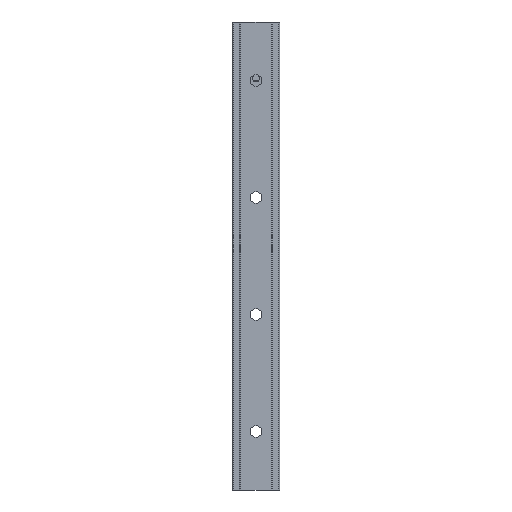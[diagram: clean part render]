
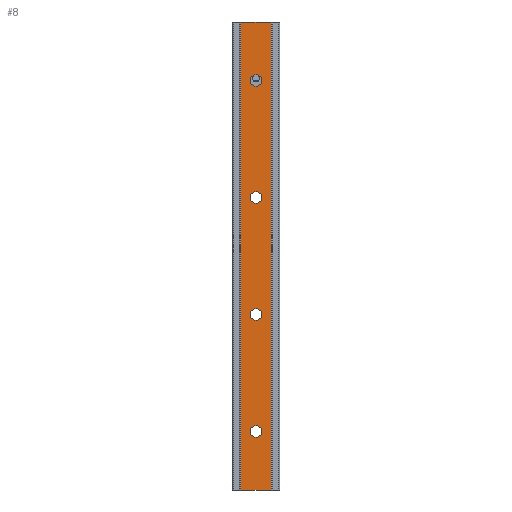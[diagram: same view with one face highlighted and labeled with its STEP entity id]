
A CAD part, front view. The second image highlights one B-rep face of the part: STEP entity #8.
In plain terms, the highlighted planar face has unit normal (0, -1, 0).
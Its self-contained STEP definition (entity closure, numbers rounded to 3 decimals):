
#8 = ADVANCED_FACE ( 'NONE', ( #2481, #12439, #6533, #7404, #11442 ), #10574, .T. ) ;
#205 = CARTESIAN_POINT ( 'NONE',  ( -6.6, 0., -200. ) ) ;
#268 = DIRECTION ( 'NONE',  ( 0., 0., 1. ) ) ;
#1140 = VECTOR ( 'NONE', #5622, 1000. ) ;
#1373 = DIRECTION ( 'NONE',  ( 0., 1., 0. ) ) ;
#1572 = DIRECTION ( 'NONE',  ( 0., 0., 1. ) ) ;
#1886 = VECTOR ( 'NONE', #8439, 1000. ) ;
#1965 = DIRECTION ( 'NONE',  ( 0., 1., 0. ) ) ;
#2031 = DIRECTION ( 'NONE',  ( 0., 0., 1. ) ) ;
#2096 = DIRECTION ( 'NONE',  ( 0., 1., 0. ) ) ;
#2279 = VERTEX_POINT ( 'NONE', #6287 ) ;
#2428 = EDGE_LOOP ( 'NONE', ( #9776, #6931, #12504, #12284 ) ) ;
#2446 = EDGE_LOOP ( 'NONE', ( #3698, #12157 ) ) ;
#2481 = FACE_BOUND ( 'NONE', #2446, .T. ) ;
#2564 = LINE ( 'NONE', #2846, #1140 ) ;
#2645 = EDGE_CURVE ( 'NONE', #12613, #3047, #8004, .T. ) ;
#2819 = CIRCLE ( 'NONE', #3885, 2.5 ) ;
#2846 = CARTESIAN_POINT ( 'NONE',  ( -10.075, 0., -200. ) ) ;
#3043 = AXIS2_PLACEMENT_3D ( 'NONE', #11854, #6815, #10864 ) ;
#3047 = VERTEX_POINT ( 'NONE', #7060 ) ;
#3090 = ORIENTED_EDGE ( 'NONE', *, *, #5325, .T. ) ;
#3153 = AXIS2_PLACEMENT_3D ( 'NONE', #12181, #5332, #10306 ) ;
#3178 = VERTEX_POINT ( 'NONE', #6188 ) ;
#3200 = DIRECTION ( 'NONE',  ( 0., 0., -1. ) ) ;
#3202 = VERTEX_POINT ( 'NONE', #7445 ) ;
#3319 = DIRECTION ( 'NONE',  ( 0., 1., 0. ) ) ;
#3500 = ORIENTED_EDGE ( 'NONE', *, *, #10775, .T. ) ;
#3554 = DIRECTION ( 'NONE',  ( 0., 0., -1. ) ) ;
#3601 = VERTEX_POINT ( 'NONE', #9349 ) ;
#3680 = DIRECTION ( 'NONE',  ( 0., 1., 0. ) ) ;
#3698 = ORIENTED_EDGE ( 'NONE', *, *, #8315, .T. ) ;
#3699 = DIRECTION ( 'NONE',  ( 0., 1., 0. ) ) ;
#3795 = CARTESIAN_POINT ( 'NONE',  ( -6.6, 0., -200. ) ) ;
#3866 = CIRCLE ( 'NONE', #11270, 2.5 ) ;
#3885 = AXIS2_PLACEMENT_3D ( 'NONE', #4973, #1965, #2031 ) ;
#3924 = EDGE_CURVE ( 'NONE', #3601, #9336, #5469, .T. ) ;
#4024 = VECTOR ( 'NONE', #10183, 1000. ) ;
#4223 = DIRECTION ( 'NONE',  ( 0., 0., 1. ) ) ;
#4315 = CIRCLE ( 'NONE', #7907, 2.5 ) ;
#4401 = LINE ( 'NONE', #8313, #1886 ) ;
#4531 = AXIS2_PLACEMENT_3D ( 'NONE', #7402, #1373, #4223 ) ;
#4684 = CARTESIAN_POINT ( 'NONE',  ( 0., 0., -25. ) ) ;
#4973 = CARTESIAN_POINT ( 'NONE',  ( 0., 0., -75. ) ) ;
#5061 = AXIS2_PLACEMENT_3D ( 'NONE', #6562, #3319, #268 ) ;
#5065 = EDGE_CURVE ( 'NONE', #6482, #2279, #5470, .T. ) ;
#5325 = EDGE_CURVE ( 'NONE', #11349, #3202, #11614, .T. ) ;
#5332 = DIRECTION ( 'NONE',  ( 0., 1., 0. ) ) ;
#5469 = CIRCLE ( 'NONE', #6325, 2.5 ) ;
#5470 = CIRCLE ( 'NONE', #5061, 2.5 ) ;
#5622 = DIRECTION ( 'NONE',  ( 1., 0., 0. ) ) ;
#5720 = ORIENTED_EDGE ( 'NONE', *, *, #11336, .T. ) ;
#6087 = EDGE_LOOP ( 'NONE', ( #9491, #12712 ) ) ;
#6091 = VERTEX_POINT ( 'NONE', #10148 ) ;
#6188 = CARTESIAN_POINT ( 'NONE',  ( 0., 0., -77.5 ) ) ;
#6227 = CIRCLE ( 'NONE', #4531, 2.5 ) ;
#6287 = CARTESIAN_POINT ( 'NONE',  ( 0., 0., -22.5 ) ) ;
#6325 = AXIS2_PLACEMENT_3D ( 'NONE', #9127, #2096, #10186 ) ;
#6482 = VERTEX_POINT ( 'NONE', #11862 ) ;
#6533 = FACE_BOUND ( 'NONE', #7778, .T. ) ;
#6562 = CARTESIAN_POINT ( 'NONE',  ( 0., 0., -25. ) ) ;
#6815 = DIRECTION ( 'NONE',  ( 0., 1., 0. ) ) ;
#6931 = ORIENTED_EDGE ( 'NONE', *, *, #9356, .T. ) ;
#6952 = EDGE_CURVE ( 'NONE', #3178, #6091, #2819, .T. ) ;
#7049 = LINE ( 'NONE', #205, #9387 ) ;
#7060 = CARTESIAN_POINT ( 'NONE',  ( 6.6, 0., 0. ) ) ;
#7285 = VERTEX_POINT ( 'NONE', #3795 ) ;
#7402 = CARTESIAN_POINT ( 'NONE',  ( 0., 0., -75. ) ) ;
#7404 = FACE_OUTER_BOUND ( 'NONE', #2428, .T. ) ;
#7445 = CARTESIAN_POINT ( 'NONE',  ( 0., 0., -127.5 ) ) ;
#7778 = EDGE_LOOP ( 'NONE', ( #3500, #8399 ) ) ;
#7907 = AXIS2_PLACEMENT_3D ( 'NONE', #4684, #3699, #1572 ) ;
#8004 = LINE ( 'NONE', #8999, #4024 ) ;
#8032 = EDGE_CURVE ( 'NONE', #7285, #8066, #2564, .T. ) ;
#8066 = VERTEX_POINT ( 'NONE', #10786 ) ;
#8204 = CARTESIAN_POINT ( 'NONE',  ( 0., 0., -122.5 ) ) ;
#8313 = CARTESIAN_POINT ( 'NONE',  ( 6.6, 0., 0. ) ) ;
#8315 = EDGE_CURVE ( 'NONE', #6091, #3178, #6227, .T. ) ;
#8399 = ORIENTED_EDGE ( 'NONE', *, *, #3924, .T. ) ;
#8439 = DIRECTION ( 'NONE',  ( 0., 0., 1. ) ) ;
#8520 = EDGE_LOOP ( 'NONE', ( #3090, #5720 ) ) ;
#8738 = CIRCLE ( 'NONE', #3043, 2.5 ) ;
#8968 = AXIS2_PLACEMENT_3D ( 'NONE', #13134, #12830, #3554 ) ;
#8999 = CARTESIAN_POINT ( 'NONE',  ( -10.075, 0., 0. ) ) ;
#9127 = CARTESIAN_POINT ( 'NONE',  ( 0., 0., -175. ) ) ;
#9336 = VERTEX_POINT ( 'NONE', #13027 ) ;
#9349 = CARTESIAN_POINT ( 'NONE',  ( 0., 0., -177.5 ) ) ;
#9356 = EDGE_CURVE ( 'NONE', #12613, #7285, #7049, .T. ) ;
#9387 = VECTOR ( 'NONE', #3200, 1000. ) ;
#9491 = ORIENTED_EDGE ( 'NONE', *, *, #11594, .T. ) ;
#9776 = ORIENTED_EDGE ( 'NONE', *, *, #2645, .F. ) ;
#10148 = CARTESIAN_POINT ( 'NONE',  ( 0., 0., -72.5 ) ) ;
#10183 = DIRECTION ( 'NONE',  ( 1., 0., 0. ) ) ;
#10186 = DIRECTION ( 'NONE',  ( 0., 0., 1. ) ) ;
#10306 = DIRECTION ( 'NONE',  ( 0., 0., 1. ) ) ;
#10574 = PLANE ( 'NONE',  #8968 ) ;
#10627 = DIRECTION ( 'NONE',  ( 0., 0., 1. ) ) ;
#10775 = EDGE_CURVE ( 'NONE', #9336, #3601, #3866, .T. ) ;
#10786 = CARTESIAN_POINT ( 'NONE',  ( 6.6, 0., -200. ) ) ;
#10864 = DIRECTION ( 'NONE',  ( 0., 0., 1. ) ) ;
#11270 = AXIS2_PLACEMENT_3D ( 'NONE', #11815, #3680, #10627 ) ;
#11336 = EDGE_CURVE ( 'NONE', #3202, #11349, #8738, .T. ) ;
#11349 = VERTEX_POINT ( 'NONE', #8204 ) ;
#11442 = FACE_BOUND ( 'NONE', #6087, .T. ) ;
#11594 = EDGE_CURVE ( 'NONE', #2279, #6482, #4315, .T. ) ;
#11614 = CIRCLE ( 'NONE', #3153, 2.5 ) ;
#11815 = CARTESIAN_POINT ( 'NONE',  ( 0., 0., -175. ) ) ;
#11854 = CARTESIAN_POINT ( 'NONE',  ( 0., 0., -125. ) ) ;
#11862 = CARTESIAN_POINT ( 'NONE',  ( 0., 0., -27.5 ) ) ;
#12157 = ORIENTED_EDGE ( 'NONE', *, *, #6952, .T. ) ;
#12181 = CARTESIAN_POINT ( 'NONE',  ( 0., 0., -125. ) ) ;
#12284 = ORIENTED_EDGE ( 'NONE', *, *, #12758, .T. ) ;
#12439 = FACE_BOUND ( 'NONE', #8520, .T. ) ;
#12504 = ORIENTED_EDGE ( 'NONE', *, *, #8032, .T. ) ;
#12613 = VERTEX_POINT ( 'NONE', #13015 ) ;
#12712 = ORIENTED_EDGE ( 'NONE', *, *, #5065, .T. ) ;
#12758 = EDGE_CURVE ( 'NONE', #8066, #3047, #4401, .T. ) ;
#12830 = DIRECTION ( 'NONE',  ( 0., -1., 0. ) ) ;
#13015 = CARTESIAN_POINT ( 'NONE',  ( -6.6, 0., 0. ) ) ;
#13027 = CARTESIAN_POINT ( 'NONE',  ( 0., 0., -172.5 ) ) ;
#13134 = CARTESIAN_POINT ( 'NONE',  ( -10.075, 0., -200. ) ) ;
